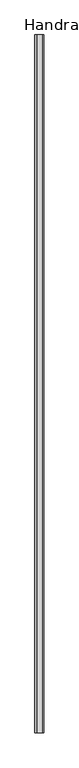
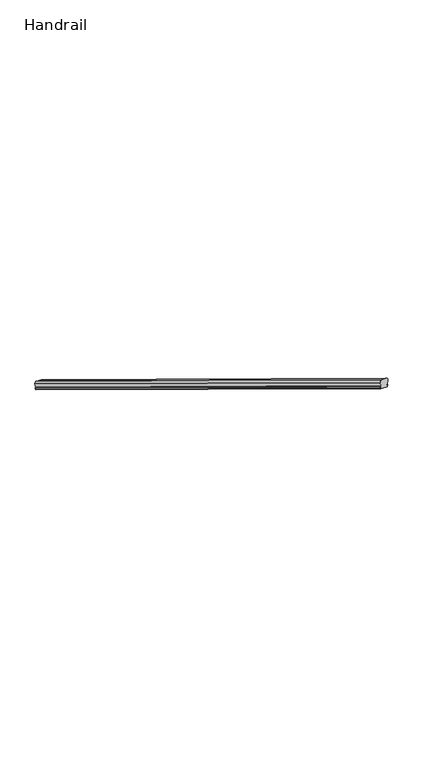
"""IFC4 building model written with IfcOpenShell, lengths in millimetres: railing geometry, Handrail."""

from ifc_helpers import new_model, si_unit, frame, origin, place, context, project, spatial, ellipse_curve, source, transform, mapped, element, save
from ifc_brep_helpers import plane_surface, cylinder_surface, advanced_brep


def handrail_d026e52b(model_context):
    return source(origin(), model_context, "Body", "AdvancedBrep", [
        advanced_brep(
        [(-10149.0163349, 8900.1786599, 1084.4388889), (-10149.0163349, 8900.1786599, 1092.1990698), (-10149.0163349, 8900.1786599, 1101.1016032), (-10149.0163349, 8900.1786599, 1106.7394079), (-10154.0503038, 8900.1786599, 1137.3825898), (-10141.5788219, 8900.1786599, 1155.057199), (-10105.6538479, 8900.1786599, 1155.057199), (-10093.182366, 8900.1786599, 1137.3825898), (-10098.2163349, 8900.1786599, 1106.7394079), (-10098.2163349, 8900.1786599, 1101.1016032), (-10098.2163349, 8900.1786599, 1092.1990698), (-10098.2163349, 8900.1786599, 1084.4388889), (-10149.0163349, 4150.3786599, 3975.1), (-10098.2163349, 4150.3786599, 3975.1), (-10098.2163349, 4150.3786599, 3982.8601809), (-10098.2163349, 4150.3786599, 3991.7627143), (-10098.2163349, 4150.3786599, 3997.400519), (-10093.182366, 4150.3786599, 4028.0437009), (-10105.6538479, 4150.3786599, 4045.7183102), (-10141.5788219, 4150.3786599, 4045.7183102), (-10154.0503038, 4150.3786599, 4028.0437009), (-10149.0163349, 4150.3786599, 3997.400519), (-10149.0163349, 4150.3786599, 3991.7627143), (-10149.0163349, 4150.3786599, 3982.8601809)],
        [
            (0, 1),
            (1, 2, ellipse_curve(frame((-10149.0163349, 8900.1786599, 1096.6503365), z_axis=(0.0, 1.0, 0.0), x_axis=(0.0, 0.0, -1.0)), 4.4512667, 3.802451)),
            (2, 3),
            (3, 4),
            (4, 5, ellipse_curve(frame((-10141.5788219, 8900.1786599, 1140.1901864), z_axis=(0.0, 1.0, 0.0), x_axis=(0.0, 0.0, -1.0)), 14.8670127, 12.7)),
            (5, 6),
            (6, 7, ellipse_curve(frame((-10105.6538479, 8900.1786599, 1140.1901864), z_axis=(0.0, 1.0, 0.0), x_axis=(0.0, 0.0, -1.0)), 14.8670127, 12.7)),
            (7, 8),
            (8, 9),
            (9, 10, ellipse_curve(frame((-10098.2163349, 8900.1786599, 1096.6503365), z_axis=(0.0, 1.0, 0.0), x_axis=(0.0, 0.0, -1.0)), 4.4512667, 3.802451)),
            (10, 11),
            (11, 0),
            (12, 13),
            (13, 14),
            (14, 15, ellipse_curve(frame((-10098.2163349, 4150.3786599, 3987.3114476), z_axis=(0.0, -1.0, 0.0), x_axis=(0.0, 0.0, -1.0)), 4.4512667, 3.802451)),
            (15, 16),
            (16, 17),
            (17, 18, ellipse_curve(frame((-10105.6538479, 4150.3786599, 4030.8512975), z_axis=(0.0, -1.0, 0.0), x_axis=(0.0, 0.0, -1.0)), 14.8670127, 12.7)),
            (18, 19),
            (19, 20, ellipse_curve(frame((-10141.5788219, 4150.3786599, 4030.8512975), z_axis=(0.0, -1.0, 0.0), x_axis=(0.0, 0.0, -1.0)), 14.8670127, 12.7)),
            (20, 21),
            (21, 22),
            (22, 23, ellipse_curve(frame((-10149.0163349, 4150.3786599, 3987.3114476), z_axis=(0.0, -1.0, 0.0), x_axis=(0.0, 0.0, -1.0)), 4.4512667, 3.802451)),
            (23, 12),
            (0, 12),
            (23, 1),
            (22, 2),
            (21, 3),
            (20, 4),
            (19, 5),
            (18, 6),
            (17, 7),
            (16, 8),
            (15, 9),
            (14, 10),
            (13, 11),
        ],
        [
            plane_surface(frame((-10123.6163349, 8900.1786599, 1084.4388889), z_axis=(0.0, 1.0, 0.0), x_axis=(0.0, 0.0, -1.0))),
            plane_surface(frame((-10123.6163349, 4150.3786599, 3975.1), z_axis=(0.0, -1.0, 0.0), x_axis=(0.0, 0.0, -1.0))),
            plane_surface(frame((-10149.0163349, 8900.1786599, 1084.4388889), z_axis=(-1.0, 0.0, 0.0), x_axis=(0.0, -0.8542402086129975, 0.519878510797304))),
            cylinder_surface(frame((-10149.0163349, 8905.6017775, 1093.3499038), z_axis=(0.0, 0.8542402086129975, -0.519878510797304), x_axis=(-1.0, 0.0, 0.0)), 3.802451),
            plane_surface(frame((-10149.0163349, 8900.1786599, 1101.1016032), z_axis=(-1.0, 0.0, 0.0), x_axis=(0.0, -0.8542402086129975, 0.5198785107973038))),
            plane_surface(frame((-10149.0163349, 8900.1786599, 1106.7394079), z_axis=(-0.9820064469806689, -0.09817770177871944, -0.16132103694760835), x_axis=(0.0, -0.8542402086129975, 0.519878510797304))),
            cylinder_surface(frame((-10141.5788219, 8924.937874, 1125.1220788), z_axis=(0.0, 0.8542402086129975, -0.519878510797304), x_axis=(-1.0, 0.0, 0.0)), 12.7),
            plane_surface(frame((-10141.5788219, 8900.1786599, 1155.057199), z_axis=(0.0, 0.519878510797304, 0.8542402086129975), x_axis=(0.0, -0.8542402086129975, 0.519878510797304))),
            cylinder_surface(frame((-10105.6538479, 8924.937874, 1125.1220788), z_axis=(0.0, 0.8542402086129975, -0.519878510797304), x_axis=(-1.0, 0.0, 0.0)), 12.7),
            plane_surface(frame((-10093.182366, 8900.1786599, 1137.3825898), z_axis=(0.9820064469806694, -0.09817770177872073, -0.1613210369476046), x_axis=(0.0, -0.8542402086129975, 0.519878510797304))),
            plane_surface(frame((-10098.2163349, 8900.1786599, 1106.7394079), z_axis=(1.0, 0.0, 0.0), x_axis=(0.0, -0.8542402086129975, 0.519878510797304))),
            cylinder_surface(frame((-10098.2163349, 8905.6017775, 1093.3499038), z_axis=(0.0, 0.8542402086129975, -0.519878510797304), x_axis=(-1.0, 0.0, 0.0)), 3.802451),
            plane_surface(frame((-10098.2163349, 8900.1786599, 1092.1990698), z_axis=(1.0, 0.0, 0.0), x_axis=(0.0, -0.8542402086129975, 0.519878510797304))),
            plane_surface(frame((-10098.2163349, 8900.1786599, 1084.4388889), z_axis=(0.0, -0.519878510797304, -0.8542402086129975), x_axis=(0.0, -0.8542402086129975, 0.519878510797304))),
        ],
        [
            (0, [[1, 2, 3, 4, 5, 6, 7, 8, 9, 10, 11, 12]]),
            (1, [[13, 14, 15, 16, 17, 18, 19, 20, 21, 22, 23, 24]]),
            (2, [[-1, 25, -24, 26]]),
            (3, [[-2, -26, -23, 27]]),
            (4, [[-3, -27, -22, 28]]),
            (5, [[-4, -28, -21, 29]]),
            (6, [[-5, -29, -20, 30]]),
            (7, [[-6, -30, -19, 31]]),
            (8, [[-7, -31, -18, 32]]),
            (9, [[-8, -32, -17, 33]]),
            (10, [[-9, -33, -16, 34]]),
            (11, [[-10, -34, -15, 35]]),
            (12, [[-11, -35, -14, 36]]),
            (13, [[-12, -36, -13, -25]]),
        ],
    ),
    ])


if __name__ == "__main__":
    model = new_model("IFC4")
    model_context = context("Model", 3, world=origin())
    ifc_project = project(units=[si_unit("LENGTHUNIT", "METRE", prefix="MILLI")], contexts=[model_context])
    site = spatial("IfcSite", under=ifc_project)
    building = spatial("IfcBuilding", under=site)
    placement = place(None, origin())
    handrail_shape = handrail_d026e52b(model_context)
    element("IfcRailing", 1, ObjectType="Handrail", at=placement, inside=building, context=model_context, shape_type="MappedRepresentation", body=[
        mapped(handrail_shape, transform((0.0, 0.0, 0.0), x_axis=(1.0, 0.0, 0.0), y_axis=(0.0, 1.0, 0.0), z_axis=(0.0, 0.0, 1.0))),
    ])
    save(model, "model.ifc")
